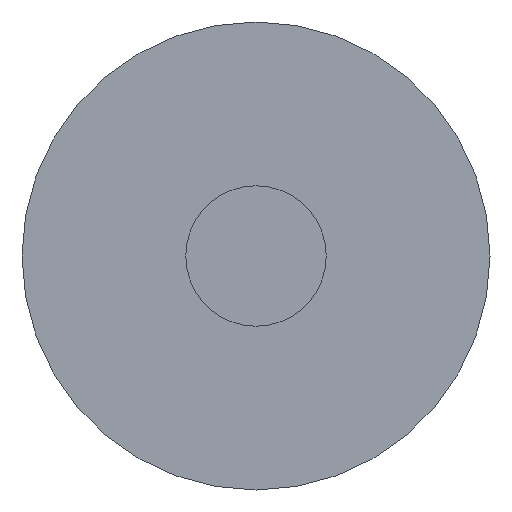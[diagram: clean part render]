
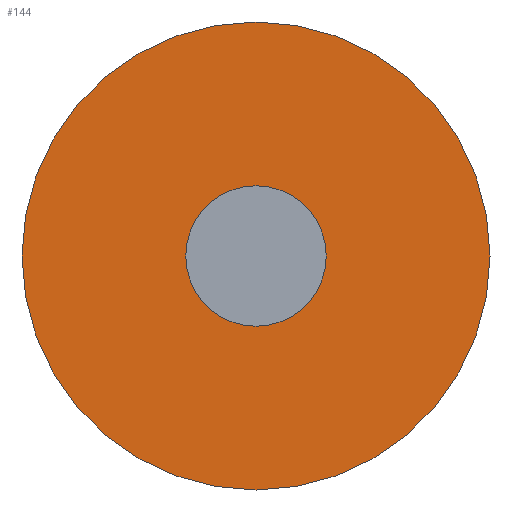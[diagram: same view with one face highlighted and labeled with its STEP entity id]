
A CAD part, front view. The second image highlights one B-rep face of the part: STEP entity #144.
In plain terms, the highlighted planar face has unit normal (0, -1, 0).
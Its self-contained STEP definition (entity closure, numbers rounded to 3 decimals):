
#31 = CYLINDRICAL_SURFACE('',#32,7.);
#32 = AXIS2_PLACEMENT_3D('',#33,#34,#35);
#33 = CARTESIAN_POINT('',(160.,35.,-80.));
#34 = DIRECTION('',(0.,1.,0.));
#35 = DIRECTION('',(0.,-0.,1.));
#56 = VERTEX_POINT('',#57);
#57 = CARTESIAN_POINT('',(160.,35.,-73.));
#78 = EDGE_CURVE('',#56,#56,#79,.T.);
#79 = SURFACE_CURVE('',#80,(#85,#92),.PCURVE_S1.);
#80 = CIRCLE('',#81,7.);
#81 = AXIS2_PLACEMENT_3D('',#82,#83,#84);
#82 = CARTESIAN_POINT('',(160.,35.,-80.));
#83 = DIRECTION('',(0.,1.,0.));
#84 = DIRECTION('',(0.,-0.,1.));
#85 = PCURVE('',#31,#86);
#86 = DEFINITIONAL_REPRESENTATION('',(#87),#91);
#87 = LINE('',#88,#89);
#88 = CARTESIAN_POINT('',(0.,0.));
#89 = VECTOR('',#90,1.);
#90 = DIRECTION('',(1.,0.));
#91 = ( GEOMETRIC_REPRESENTATION_CONTEXT(2) 
PARAMETRIC_REPRESENTATION_CONTEXT() REPRESENTATION_CONTEXT('2D SPACE',''
  ) );
#92 = PCURVE('',#93,#98);
#93 = PLANE('',#94);
#94 = AXIS2_PLACEMENT_3D('',#95,#96,#97);
#95 = CARTESIAN_POINT('',(160.,35.,-80.));
#96 = DIRECTION('',(0.,1.,0.));
#97 = DIRECTION('',(0.,-0.,1.));
#98 = DEFINITIONAL_REPRESENTATION('',(#99),#103);
#99 = CIRCLE('',#100,7.);
#100 = AXIS2_PLACEMENT_2D('',#101,#102);
#101 = CARTESIAN_POINT('',(0.,0.));
#102 = DIRECTION('',(1.,0.));
#103 = ( GEOMETRIC_REPRESENTATION_CONTEXT(2) 
PARAMETRIC_REPRESENTATION_CONTEXT() REPRESENTATION_CONTEXT('2D SPACE',''
  ) );
#144 = ADVANCED_FACE('',(#145,#148),#93,.F.);
#145 = FACE_BOUND('',#146,.F.);
#146 = EDGE_LOOP('',(#147));
#147 = ORIENTED_EDGE('',*,*,#78,.T.);
#148 = FACE_BOUND('',#149,.F.);
#149 = EDGE_LOOP('',(#150));
#150 = ORIENTED_EDGE('',*,*,#151,.F.);
#151 = EDGE_CURVE('',#152,#152,#154,.T.);
#152 = VERTEX_POINT('',#153);
#153 = CARTESIAN_POINT('',(160.,35.,-77.9));
#154 = SURFACE_CURVE('',#155,(#160,#167),.PCURVE_S1.);
#155 = CIRCLE('',#156,2.1);
#156 = AXIS2_PLACEMENT_3D('',#157,#158,#159);
#157 = CARTESIAN_POINT('',(160.,35.,-80.));
#158 = DIRECTION('',(0.,1.,0.));
#159 = DIRECTION('',(0.,-0.,1.));
#160 = PCURVE('',#93,#161);
#161 = DEFINITIONAL_REPRESENTATION('',(#162),#166);
#162 = CIRCLE('',#163,2.1);
#163 = AXIS2_PLACEMENT_2D('',#164,#165);
#164 = CARTESIAN_POINT('',(0.,0.));
#165 = DIRECTION('',(1.,0.));
#166 = ( GEOMETRIC_REPRESENTATION_CONTEXT(2) 
PARAMETRIC_REPRESENTATION_CONTEXT() REPRESENTATION_CONTEXT('2D SPACE',''
  ) );
#167 = PCURVE('',#168,#173);
#168 = CYLINDRICAL_SURFACE('',#169,2.1);
#169 = AXIS2_PLACEMENT_3D('',#170,#171,#172);
#170 = CARTESIAN_POINT('',(160.,34.,-80.));
#171 = DIRECTION('',(0.,1.,0.));
#172 = DIRECTION('',(0.,-0.,1.));
#173 = DEFINITIONAL_REPRESENTATION('',(#174),#178);
#174 = LINE('',#175,#176);
#175 = CARTESIAN_POINT('',(0.,1.));
#176 = VECTOR('',#177,1.);
#177 = DIRECTION('',(1.,0.));
#178 = ( GEOMETRIC_REPRESENTATION_CONTEXT(2) 
PARAMETRIC_REPRESENTATION_CONTEXT() REPRESENTATION_CONTEXT('2D SPACE',''
  ) );
